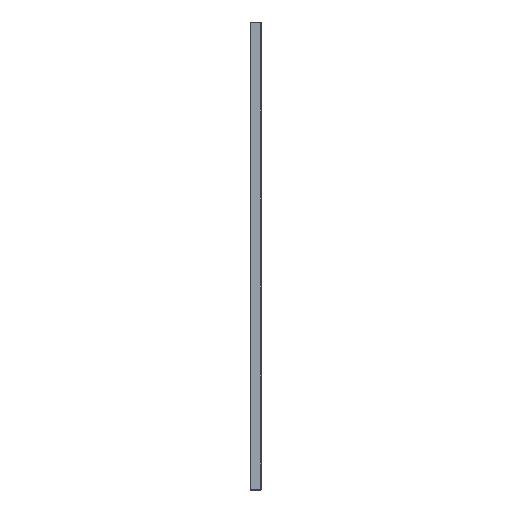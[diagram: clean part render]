
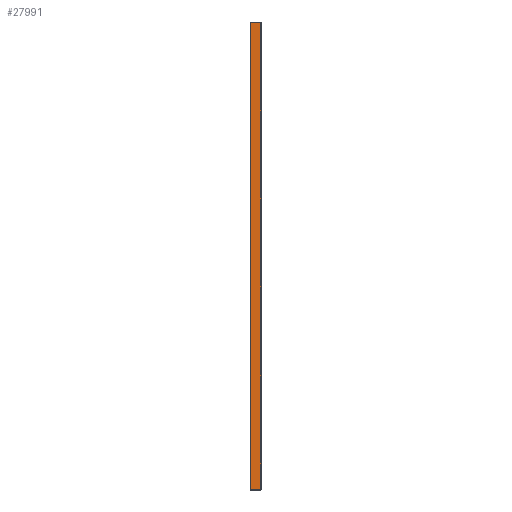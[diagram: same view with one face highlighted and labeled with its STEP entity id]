
A CAD part, top view. The second image highlights one B-rep face of the part: STEP entity #27991.
In plain terms, the highlighted planar face has unit normal (0, 0, 1).
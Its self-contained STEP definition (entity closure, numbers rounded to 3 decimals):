
#577=PLANE('',#29792);
#1908=FACE_OUTER_BOUND('',#3497,.T.);
#3497=EDGE_LOOP('',(#21094,#21095,#21096,#21097,#21098,#21099,#21100,#21101,
#21102));
#6506=LINE('',#48300,#9298);
#6798=LINE('',#53144,#9590);
#6870=LINE('',#54351,#9662);
#6942=LINE('',#55560,#9734);
#7012=LINE('',#56766,#9804);
#7013=LINE('',#56767,#9805);
#7014=LINE('',#56768,#9806);
#7015=LINE('',#56769,#9807);
#7016=LINE('',#56770,#9808);
#9298=VECTOR('',#32271,10.);
#9590=VECTOR('',#32939,10.);
#9662=VECTOR('',#33105,10.);
#9734=VECTOR('',#33271,10.);
#9804=VECTOR('',#33433,10.);
#9805=VECTOR('',#33434,10.);
#9806=VECTOR('',#33435,10.);
#9807=VECTOR('',#33436,10.);
#9808=VECTOR('',#33437,10.);
#12577=VERTEX_POINT('',#48293);
#12579=VERTEX_POINT('',#48299);
#12801=VERTEX_POINT('',#53137);
#12803=VERTEX_POINT('',#53143);
#12856=VERTEX_POINT('',#54350);
#12909=VERTEX_POINT('',#55553);
#12911=VERTEX_POINT('',#55559);
#12965=VERTEX_POINT('',#56764);
#12966=VERTEX_POINT('',#56765);
#15344=EDGE_CURVE('',#12579,#12577,#6506,.T.);
#15728=EDGE_CURVE('',#12803,#12801,#6798,.T.);
#15823=EDGE_CURVE('',#12856,#12803,#6870,.T.);
#15918=EDGE_CURVE('',#12911,#12909,#6942,.T.);
#16011=EDGE_CURVE('',#12965,#12966,#7012,.T.);
#16012=EDGE_CURVE('',#12966,#12577,#7013,.T.);
#16013=EDGE_CURVE('',#12909,#12579,#7014,.T.);
#16014=EDGE_CURVE('',#12801,#12911,#7015,.T.);
#16015=EDGE_CURVE('',#12965,#12856,#7016,.T.);
#21094=ORIENTED_EDGE('',*,*,#16011,.T.);
#21095=ORIENTED_EDGE('',*,*,#16012,.T.);
#21096=ORIENTED_EDGE('',*,*,#15344,.F.);
#21097=ORIENTED_EDGE('',*,*,#16013,.F.);
#21098=ORIENTED_EDGE('',*,*,#15918,.F.);
#21099=ORIENTED_EDGE('',*,*,#16014,.F.);
#21100=ORIENTED_EDGE('',*,*,#15728,.F.);
#21101=ORIENTED_EDGE('',*,*,#15823,.F.);
#21102=ORIENTED_EDGE('',*,*,#16015,.F.);
#27991=ADVANCED_FACE('',(#1908),#577,.T.);
#29792=AXIS2_PLACEMENT_3D('',#56763,#33431,#33432);
#32271=DIRECTION('',(0.,-1.,0.));
#32939=DIRECTION('',(0.,-1.,0.));
#33105=DIRECTION('',(0.,-1.,0.));
#33271=DIRECTION('',(0.,-1.,0.));
#33431=DIRECTION('center_axis',(0.,0.,1.));
#33432=DIRECTION('ref_axis',(0.,-1.,0.));
#33433=DIRECTION('',(0.,-1.,0.));
#33434=DIRECTION('',(1.,0.,0.));
#33435=DIRECTION('',(0.,-1.,0.));
#33436=DIRECTION('',(0.,-1.,0.));
#33437=DIRECTION('',(1.,0.,0.));
#48293=CARTESIAN_POINT('',(-0.5,-21.,203.114));
#48299=CARTESIAN_POINT('',(-0.5,21.,203.114));
#48300=CARTESIAN_POINT('',(-0.5,-2.813,203.114));
#53137=CARTESIAN_POINT('',(-0.5,147.,203.114));
#53143=CARTESIAN_POINT('',(-0.5,189.,203.114));
#53144=CARTESIAN_POINT('',(-0.5,165.187,203.114));
#54350=CARTESIAN_POINT('',(-0.5,231.,203.114));
#54351=CARTESIAN_POINT('',(-0.5,207.187,203.114));
#55553=CARTESIAN_POINT('',(-0.5,63.,203.114));
#55559=CARTESIAN_POINT('',(-0.5,105.,203.114));
#55560=CARTESIAN_POINT('',(-0.5,81.187,203.114));
#56763=CARTESIAN_POINT('Origin',(-6.,120.373,203.114));
#56764=CARTESIAN_POINT('',(-6.,231.,203.114));
#56765=CARTESIAN_POINT('',(-6.,-21.,203.114));
#56766=CARTESIAN_POINT('',(-6.,63.,203.114));
#56767=CARTESIAN_POINT('',(-6.,-21.,203.114));
#56768=CARTESIAN_POINT('',(-0.5,39.187,203.114));
#56769=CARTESIAN_POINT('',(-0.5,123.187,203.114));
#56770=CARTESIAN_POINT('',(-6.,231.,203.114));
